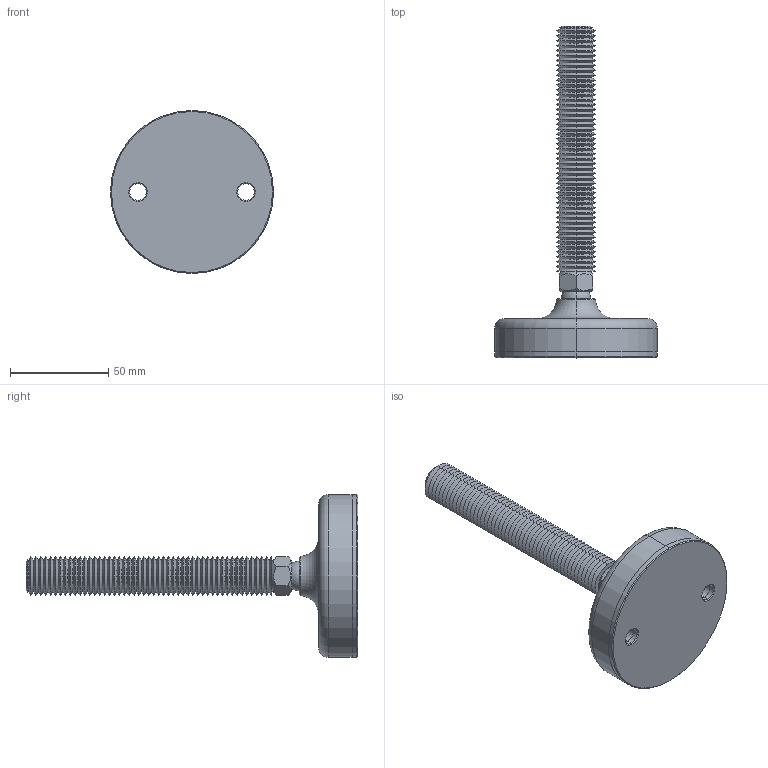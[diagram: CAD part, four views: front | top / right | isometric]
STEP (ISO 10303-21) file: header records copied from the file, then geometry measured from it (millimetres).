
FILE_DESCRIPTION (( 'STEP AP203' ), '1' );
FILE_NAME ('34724.W2002.step', '2019-11-28T22:16:00', ( '' ), ( '' ), 'SwSTEP 2.0', 'SolidWorks 2017', '' );
FILE_SCHEMA (( 'CONFIG_CONTROL_DESIGN' ));
Length unit declared in the file: millimetre
Products named in the file (4): Part3_34724.W2002; Part1_34724.W2002; 34724.W2002; Part2_34724.W2002
Assembly tree (3 placements, depth 2):
  34724.W2002
    Part1_34724.W2002
    Part2_34724.W2002
    Part3_34724.W2002
Bounding box: 83 x 169 x 83 mm (x, y, z)
Volume: 143713.6 mm3; surface area: 42878 mm2
Topology: 3 solids, 3 shells, 252 faces, 519 edges, 273 vertices
Faces by surface type: cone 218, plane 14, cylinder 12, sphere 4, torus 4
Entity records: 6962 total; most frequent: DIRECTION 1276, CARTESIAN_POINT 1184, ORIENTED_EDGE 1020, AXIS2_PLACEMENT_3D 520, EDGE_CURVE 510, VERTEX_POINT 268, EDGE_LOOP 264, CIRCLE 262
